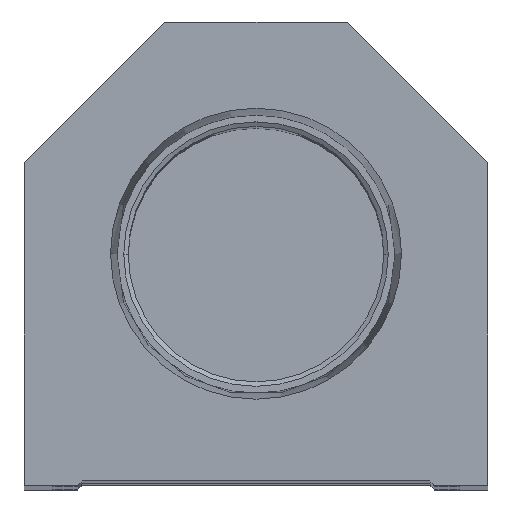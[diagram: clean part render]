
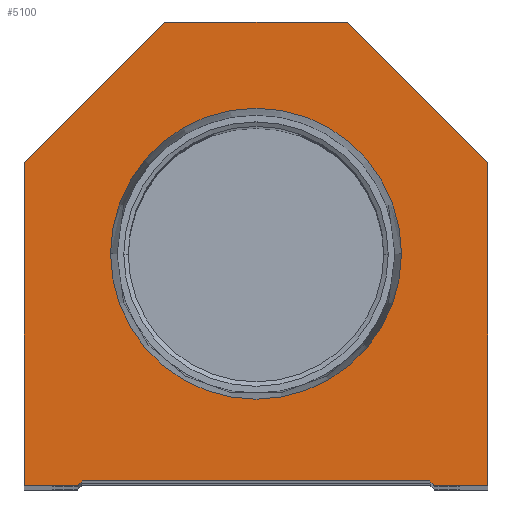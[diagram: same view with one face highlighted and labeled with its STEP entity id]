
A CAD part, top view. The second image highlights one B-rep face of the part: STEP entity #5100.
In plain terms, the highlighted planar face has unit normal (0, 0, 1).
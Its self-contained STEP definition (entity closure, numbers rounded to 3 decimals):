
#252 = VERTEX_POINT ( 'NONE', #20289 ) ;
#574 = DIRECTION ( 'NONE',  ( 1., 0., 0. ) ) ;
#628 = CARTESIAN_POINT ( 'NONE',  ( -25.4, 35.4, 0. ) ) ;
#882 = DIRECTION ( 'NONE',  ( 1., 0., 0. ) ) ;
#894 = CARTESIAN_POINT ( 'NONE',  ( -19.05, 0.5, 0. ) ) ;
#995 = LINE ( 'NONE', #15148, #18376 ) ;
#1011 = ORIENTED_EDGE ( 'NONE', *, *, #9687, .F. ) ;
#1169 = LINE ( 'NONE', #20306, #1498 ) ;
#1219 = LINE ( 'NONE', #3055, #1305 ) ;
#1233 = DIRECTION ( 'NONE',  ( 1., 0., 0. ) ) ;
#1305 = VECTOR ( 'NONE', #20358, 1000. ) ;
#1309 = ORIENTED_EDGE ( 'NONE', *, *, #22463, .T. ) ;
#1445 = DIRECTION ( 'NONE',  ( 0., 0., 1. ) ) ;
#1469 = EDGE_CURVE ( 'NONE', #4642, #3255, #19565, .T. ) ;
#1498 = VECTOR ( 'NONE', #11398, 1000. ) ;
#2036 = ORIENTED_EDGE ( 'NONE', *, *, #11244, .T. ) ;
#2242 = CARTESIAN_POINT ( 'NONE',  ( -15.947, 25.4, 0. ) ) ;
#2300 = LINE ( 'NONE', #8381, #9123 ) ;
#2450 = VERTEX_POINT ( 'NONE', #4099 ) ;
#2476 = ORIENTED_EDGE ( 'NONE', *, *, #15648, .T. ) ;
#2543 = VERTEX_POINT ( 'NONE', #15629 ) ;
#2626 = CARTESIAN_POINT ( 'NONE',  ( 19.05, 0., 0. ) ) ;
#2737 = DIRECTION ( 'NONE',  ( 1., 0., 0. ) ) ;
#3055 = CARTESIAN_POINT ( 'NONE',  ( -9.775, 9.775, 0. ) ) ;
#3255 = VERTEX_POINT ( 'NONE', #4107 ) ;
#3408 = CARTESIAN_POINT ( 'NONE',  ( 10., 50.8, 0. ) ) ;
#3816 = CARTESIAN_POINT ( 'NONE',  ( 25.4, 0., 0. ) ) ;
#4052 = VERTEX_POINT ( 'NONE', #21595 ) ;
#4099 = CARTESIAN_POINT ( 'NONE',  ( -25.4, 0., 0. ) ) ;
#4107 = CARTESIAN_POINT ( 'NONE',  ( -10., 50.8, 0. ) ) ;
#4175 = CIRCLE ( 'NONE', #12996, 15.947 ) ;
#4465 = DIRECTION ( 'NONE',  ( 1., 0., 0. ) ) ;
#4642 = VERTEX_POINT ( 'NONE', #11997 ) ;
#5100 = ADVANCED_FACE ( 'NONE', ( #18221, #16425 ), #6207, .T. ) ;
#6018 = LINE ( 'NONE', #628, #15243 ) ;
#6207 = PLANE ( 'NONE',  #17974 ) ;
#6266 = AXIS2_PLACEMENT_3D ( 'NONE', #16950, #1445, #6407 ) ;
#6407 = DIRECTION ( 'NONE',  ( 1., 0., 0. ) ) ;
#6530 = VECTOR ( 'NONE', #17735, 1000. ) ;
#6592 = VERTEX_POINT ( 'NONE', #8075 ) ;
#6922 = CARTESIAN_POINT ( 'NONE',  ( 19.05, 0.5, 0. ) ) ;
#7282 = DIRECTION ( 'NONE',  ( -0.707, -0.707, 0. ) ) ;
#7500 = ORIENTED_EDGE ( 'NONE', *, *, #19206, .T. ) ;
#7680 = ORIENTED_EDGE ( 'NONE', *, *, #13543, .T. ) ;
#8075 = CARTESIAN_POINT ( 'NONE',  ( 19.55, 0., 0. ) ) ;
#8093 = DIRECTION ( 'NONE',  ( 0.707, -0.707, 0. ) ) ;
#8278 = VERTEX_POINT ( 'NONE', #22280 ) ;
#8381 = CARTESIAN_POINT ( 'NONE',  ( -19.05, 0., 0. ) ) ;
#8824 = ORIENTED_EDGE ( 'NONE', *, *, #12710, .T. ) ;
#9123 = VECTOR ( 'NONE', #4465, 1000. ) ;
#9299 = CARTESIAN_POINT ( 'NONE',  ( 0., 0., 0. ) ) ;
#9332 = ORIENTED_EDGE ( 'NONE', *, *, #18674, .F. ) ;
#9397 = ORIENTED_EDGE ( 'NONE', *, *, #19723, .T. ) ;
#9446 = EDGE_LOOP ( 'NONE', ( #2476, #8824, #11552, #7680, #2036, #16662, #9397, #13561, #1309, #7500 ) ) ;
#9610 = CARTESIAN_POINT ( 'NONE',  ( 0., 25.4, 0. ) ) ;
#9687 = EDGE_CURVE ( 'NONE', #18672, #9959, #4175, .T. ) ;
#9959 = VERTEX_POINT ( 'NONE', #2242 ) ;
#10135 = EDGE_CURVE ( 'NONE', #252, #4052, #19289, .T. ) ;
#10289 = CARTESIAN_POINT ( 'NONE',  ( 15.947, 25.4, 0. ) ) ;
#10822 = DIRECTION ( 'NONE',  ( 0., 1., 0. ) ) ;
#10829 = VECTOR ( 'NONE', #8093, 1000. ) ;
#11244 = EDGE_CURVE ( 'NONE', #6592, #252, #11583, .T. ) ;
#11317 = CARTESIAN_POINT ( 'NONE',  ( 9.775, 9.775, 0. ) ) ;
#11398 = DIRECTION ( 'NONE',  ( 0., -1., 0. ) ) ;
#11552 = ORIENTED_EDGE ( 'NONE', *, *, #21027, .T. ) ;
#11566 = DIRECTION ( 'NONE',  ( 0., 0., 1. ) ) ;
#11583 = LINE ( 'NONE', #2626, #13831 ) ;
#11997 = CARTESIAN_POINT ( 'NONE',  ( 10., 50.8, 0. ) ) ;
#12710 = EDGE_CURVE ( 'NONE', #8278, #2543, #1219, .T. ) ;
#12996 = AXIS2_PLACEMENT_3D ( 'NONE', #9610, #11566, #882 ) ;
#13234 = CIRCLE ( 'NONE', #6266, 15.947 ) ;
#13277 = LINE ( 'NONE', #11317, #10829 ) ;
#13366 = VECTOR ( 'NONE', #2737, 1000. ) ;
#13543 = EDGE_CURVE ( 'NONE', #22647, #6592, #13277, .T. ) ;
#13561 = ORIENTED_EDGE ( 'NONE', *, *, #1469, .T. ) ;
#13831 = VECTOR ( 'NONE', #1233, 1000. ) ;
#14683 = CARTESIAN_POINT ( 'NONE',  ( -25.4, 35.4, 0. ) ) ;
#15148 = CARTESIAN_POINT ( 'NONE',  ( 25.4, 35.4, 0. ) ) ;
#15243 = VECTOR ( 'NONE', #7282, 1000. ) ;
#15629 = CARTESIAN_POINT ( 'NONE',  ( -19.05, 0.5, 0. ) ) ;
#15648 = EDGE_CURVE ( 'NONE', #2450, #8278, #2300, .T. ) ;
#16311 = DIRECTION ( 'NONE',  ( 0., 0., 1. ) ) ;
#16425 = FACE_OUTER_BOUND ( 'NONE', #9446, .T. ) ;
#16621 = LINE ( 'NONE', #894, #13366 ) ;
#16662 = ORIENTED_EDGE ( 'NONE', *, *, #10135, .T. ) ;
#16950 = CARTESIAN_POINT ( 'NONE',  ( 0., 25.4, 0. ) ) ;
#17735 = DIRECTION ( 'NONE',  ( -1., 0., 0. ) ) ;
#17907 = VERTEX_POINT ( 'NONE', #14683 ) ;
#17952 = VECTOR ( 'NONE', #10822, 1000. ) ;
#17974 = AXIS2_PLACEMENT_3D ( 'NONE', #9299, #16311, #574 ) ;
#18221 = FACE_BOUND ( 'NONE', #18513, .T. ) ;
#18376 = VECTOR ( 'NONE', #20245, 1000. ) ;
#18513 = EDGE_LOOP ( 'NONE', ( #1011, #9332 ) ) ;
#18672 = VERTEX_POINT ( 'NONE', #10289 ) ;
#18674 = EDGE_CURVE ( 'NONE', #9959, #18672, #13234, .T. ) ;
#19206 = EDGE_CURVE ( 'NONE', #17907, #2450, #1169, .T. ) ;
#19289 = LINE ( 'NONE', #3816, #17952 ) ;
#19565 = LINE ( 'NONE', #3408, #6530 ) ;
#19723 = EDGE_CURVE ( 'NONE', #4052, #4642, #995, .T. ) ;
#20245 = DIRECTION ( 'NONE',  ( -0.707, 0.707, 0. ) ) ;
#20289 = CARTESIAN_POINT ( 'NONE',  ( 25.4, 0., 0. ) ) ;
#20306 = CARTESIAN_POINT ( 'NONE',  ( -25.4, 0., 0. ) ) ;
#20358 = DIRECTION ( 'NONE',  ( 0.707, 0.707, 0. ) ) ;
#21027 = EDGE_CURVE ( 'NONE', #2543, #22647, #16621, .T. ) ;
#21595 = CARTESIAN_POINT ( 'NONE',  ( 25.4, 35.4, 0. ) ) ;
#22280 = CARTESIAN_POINT ( 'NONE',  ( -19.55, 0., 0. ) ) ;
#22463 = EDGE_CURVE ( 'NONE', #3255, #17907, #6018, .T. ) ;
#22647 = VERTEX_POINT ( 'NONE', #6922 ) ;
